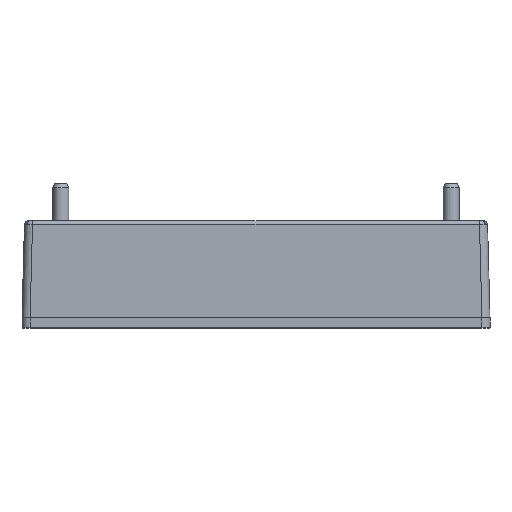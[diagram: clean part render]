
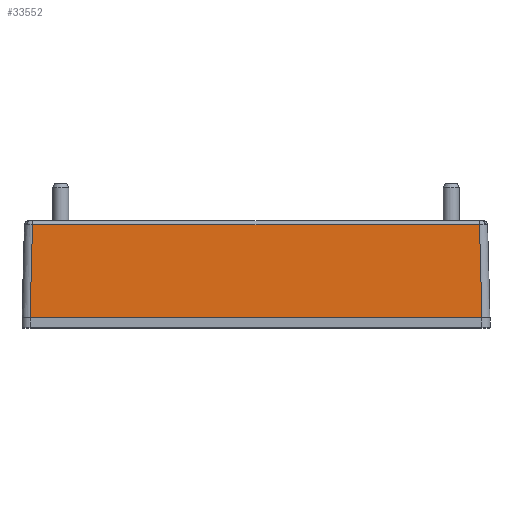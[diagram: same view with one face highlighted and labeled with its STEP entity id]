
A CAD part, top view. The second image highlights one B-rep face of the part: STEP entity #33552.
In plain terms, the highlighted planar face has unit normal (0, 0.026, 1).
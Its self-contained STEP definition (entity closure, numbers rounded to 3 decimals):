
#64 = ORIENTED_EDGE ( 'NONE', *, *, #71915, .F. ) ;
#3466 = DIRECTION ( 'NONE',  ( -1., 0., 0. ) ) ;
#4295 = PLANE ( 'NONE',  #77302 ) ;
#5285 = VERTEX_POINT ( 'NONE', #73175 ) ;
#7355 = VERTEX_POINT ( 'NONE', #58427 ) ;
#7597 = DIRECTION ( 'NONE',  ( -1., 0., 0. ) ) ;
#7785 = CARTESIAN_POINT ( 'NONE',  ( 29.052, -8.92, 91.501 ) ) ;
#7807 = CARTESIAN_POINT ( 'NONE',  ( 28.749, 2.619, 91.199 ) ) ;
#7983 = LINE ( 'NONE', #51445, #42784 ) ;
#8409 = EDGE_CURVE ( 'NONE', #7355, #38824, #47162, .T. ) ;
#8755 = ORIENTED_EDGE ( 'NONE', *, *, #16431, .T. ) ;
#9677 = DIRECTION ( 'NONE',  ( 1., 0., 0. ) ) ;
#14748 = VERTEX_POINT ( 'NONE', #48211 ) ;
#16431 = EDGE_CURVE ( 'NONE', #45773, #36348, #59344, .T. ) ;
#22652 = CARTESIAN_POINT ( 'NONE',  ( 30.051, -8.894, 91.5 ) ) ;
#25837 = VECTOR ( 'NONE', #9677, 1000. ) ;
#26518 = EDGE_CURVE ( 'NONE', #7355, #14748, #47056, .T. ) ;
#26948 = CARTESIAN_POINT ( 'NONE',  ( 29.051, -8.894, 91.5 ) ) ;
#29420 = CARTESIAN_POINT ( 'NONE',  ( -26.548, 2.619, 91.199 ) ) ;
#29833 = LINE ( 'NONE', #48165, #61604 ) ;
#30837 = EDGE_CURVE ( 'NONE', #36348, #14748, #29833, .T. ) ;
#33431 = DIRECTION ( 'NONE',  ( 0., 0.026, 1. ) ) ;
#33552 = ADVANCED_FACE ( 'NONE', ( #52951 ), #4295, .T. ) ;
#35047 = VECTOR ( 'NONE', #3466, 1000. ) ;
#36348 = VERTEX_POINT ( 'NONE', #29420 ) ;
#38119 = DIRECTION ( 'NONE',  ( -0.026, 0.999, -0.026 ) ) ;
#38824 = VERTEX_POINT ( 'NONE', #26948 ) ;
#39022 = ORIENTED_EDGE ( 'NONE', *, *, #26518, .F. ) ;
#42784 = VECTOR ( 'NONE', #7597, 1000. ) ;
#45773 = VERTEX_POINT ( 'NONE', #7807 ) ;
#47056 = LINE ( 'NONE', #78676, #69729 ) ;
#47162 = LINE ( 'NONE', #64311, #25837 ) ;
#48165 = CARTESIAN_POINT ( 'NONE',  ( -26.811, -7.406, 91.461 ) ) ;
#48211 = CARTESIAN_POINT ( 'NONE',  ( -26.85, -8.894, 91.5 ) ) ;
#48715 = DIRECTION ( 'NONE',  ( -1., 0., 0. ) ) ;
#51445 = CARTESIAN_POINT ( 'NONE',  ( 30.051, -8.894, 91.5 ) ) ;
#51589 = EDGE_LOOP ( 'NONE', ( #53946, #8755, #78518, #39022, #55831, #64 ) ) ;
#52951 = FACE_OUTER_BOUND ( 'NONE', #51589, .T. ) ;
#53946 = ORIENTED_EDGE ( 'NONE', *, *, #77988, .T. ) ;
#54942 = VECTOR ( 'NONE', #38119, 1000. ) ;
#55831 = ORIENTED_EDGE ( 'NONE', *, *, #8409, .T. ) ;
#57231 = LINE ( 'NONE', #7785, #54942 ) ;
#57763 = DIRECTION ( 'NONE',  ( 0., 1., -0.026 ) ) ;
#58427 = CARTESIAN_POINT ( 'NONE',  ( -26.849, -8.894, 91.5 ) ) ;
#59344 = LINE ( 'NONE', #76914, #35047 ) ;
#61604 = VECTOR ( 'NONE', #67994, 1000. ) ;
#64311 = CARTESIAN_POINT ( 'NONE',  ( -27.849, -8.894, 91.5 ) ) ;
#67994 = DIRECTION ( 'NONE',  ( -0.026, -0.999, 0.026 ) ) ;
#69729 = VECTOR ( 'NONE', #48715, 1000. ) ;
#71915 = EDGE_CURVE ( 'NONE', #5285, #38824, #7983, .T. ) ;
#73175 = CARTESIAN_POINT ( 'NONE',  ( 29.051, -8.894, 91.5 ) ) ;
#76914 = CARTESIAN_POINT ( 'NONE',  ( -26.536, 2.619, 91.199 ) ) ;
#77302 = AXIS2_PLACEMENT_3D ( 'NONE', #22652, #33431, #57763 ) ;
#77988 = EDGE_CURVE ( 'NONE', #5285, #45773, #57231, .T. ) ;
#78518 = ORIENTED_EDGE ( 'NONE', *, *, #30837, .T. ) ;
#78676 = CARTESIAN_POINT ( 'NONE',  ( 30.051, -8.894, 91.5 ) ) ;
